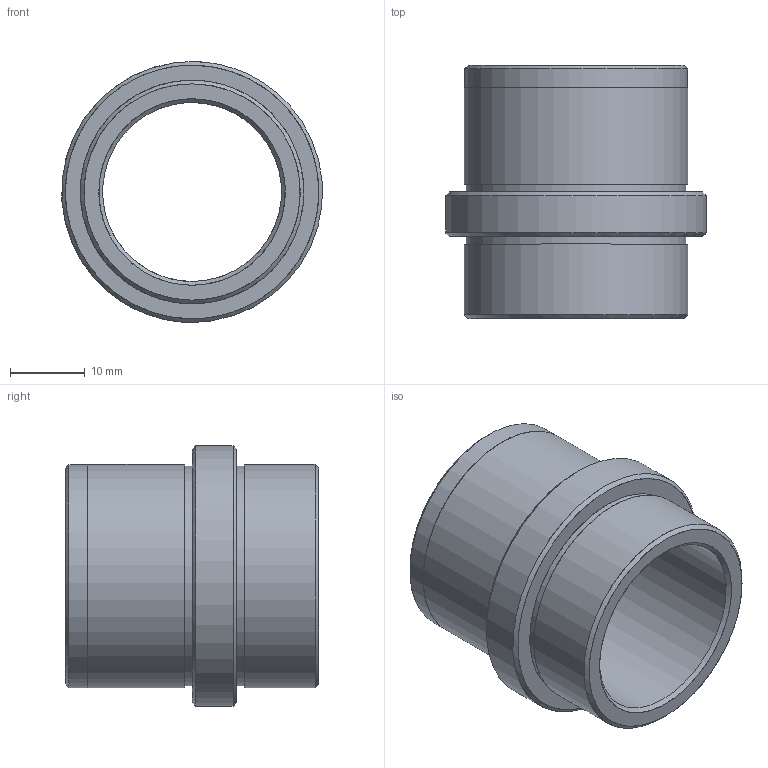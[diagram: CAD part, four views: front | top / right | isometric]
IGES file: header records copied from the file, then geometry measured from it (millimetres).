
Start section: Missler Software BP 521, 31674 Labege Cedex, France Tel   : +33 (0)5 61 00 03 00 Fax   : +33 (0)5 61 00 03 03 Email : sup.topsolid@topsolid.com
Global section: file name: D:\Cuma\24 03 2009\D22B\D22B_18X56.igs; native system: TopSolid v605250 Missler Software; preprocessor: IGES preprocessor v100000; date: 030101.001255; units: millimetre
Bounding box: 34.93 x 34 x 35 mm (x, y, z)
Surface area: 6818.4 mm2 (no closed solid volume)
Topology: 0 solids, 0 shells, 20 faces, 496 edges, 486 vertices
Faces by surface type: bspline 20
